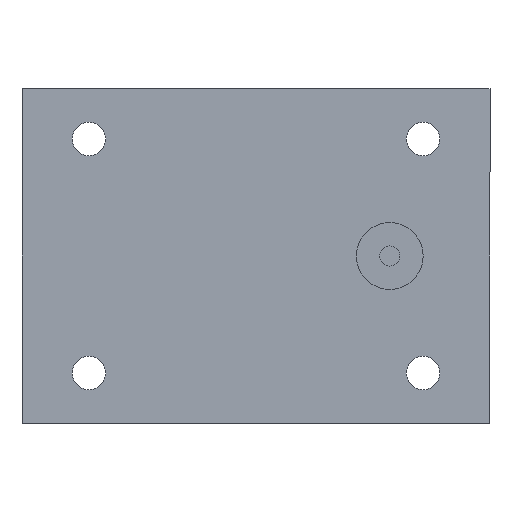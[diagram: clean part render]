
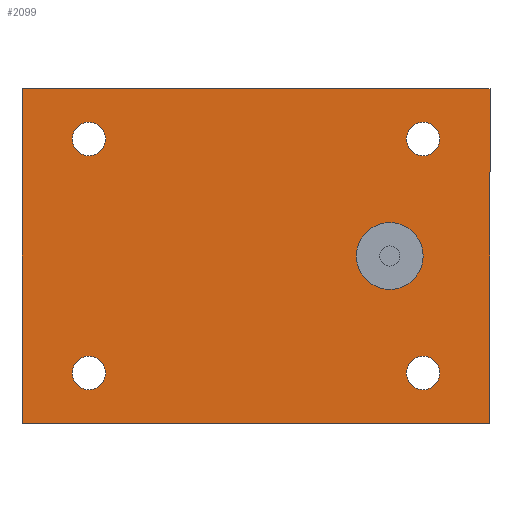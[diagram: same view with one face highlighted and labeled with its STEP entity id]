
A CAD part, front view. The second image highlights one B-rep face of the part: STEP entity #2099.
In plain terms, the highlighted planar face has unit normal (0, -1, 0).
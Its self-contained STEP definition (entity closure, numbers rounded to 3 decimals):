
#5 = LINE ( 'NONE', #1243, #1953 ) ;
#22 = FACE_BOUND ( 'NONE', #175, .T. ) ;
#33 = ORIENTED_EDGE ( 'NONE', *, *, #551, .T. ) ;
#34 = CARTESIAN_POINT ( 'NONE',  ( -25., 0., 20. ) ) ;
#35 = ORIENTED_EDGE ( 'NONE', *, *, #1269, .F. ) ;
#37 = ORIENTED_EDGE ( 'NONE', *, *, #637, .T. ) ;
#43 = CARTESIAN_POINT ( 'NONE',  ( 35., 0., 25. ) ) ;
#65 = CARTESIAN_POINT ( 'NONE',  ( -25., 0., 17.5 ) ) ;
#93 = DIRECTION ( 'NONE',  ( 0., 0., -1. ) ) ;
#114 = DIRECTION ( 'NONE',  ( 0., 1., 0. ) ) ;
#144 = DIRECTION ( 'NONE',  ( 1., 0., 0. ) ) ;
#175 = EDGE_LOOP ( 'NONE', ( #1355, #1098 ) ) ;
#191 = CARTESIAN_POINT ( 'NONE',  ( 20., 0., 0. ) ) ;
#201 = AXIS2_PLACEMENT_3D ( 'NONE', #974, #1367, #1846 ) ;
#202 = DIRECTION ( 'NONE',  ( 0., 0., 1. ) ) ;
#231 = CARTESIAN_POINT ( 'NONE',  ( 20., 0., 0. ) ) ;
#232 = EDGE_LOOP ( 'NONE', ( #1827, #1901 ) ) ;
#243 = CIRCLE ( 'NONE', #201, 2.5 ) ;
#253 = AXIS2_PLACEMENT_3D ( 'NONE', #2047, #680, #339 ) ;
#289 = CARTESIAN_POINT ( 'NONE',  ( -35., 0., 25. ) ) ;
#316 = VERTEX_POINT ( 'NONE', #1195 ) ;
#338 = EDGE_CURVE ( 'NONE', #1907, #2186, #2118, .T. ) ;
#339 = DIRECTION ( 'NONE',  ( 0., 0., 1. ) ) ;
#343 = CARTESIAN_POINT ( 'NONE',  ( -25., 0., 17.5 ) ) ;
#357 = VECTOR ( 'NONE', #393, 1000. ) ;
#361 = VERTEX_POINT ( 'NONE', #1363 ) ;
#364 = DIRECTION ( 'NONE',  ( 0., -1., 0. ) ) ;
#387 = VECTOR ( 'NONE', #144, 1000. ) ;
#393 = DIRECTION ( 'NONE',  ( 0., 0., 1. ) ) ;
#423 = DIRECTION ( 'NONE',  ( 0., 0., -1. ) ) ;
#432 = CARTESIAN_POINT ( 'NONE',  ( 20., 0., 5. ) ) ;
#495 = DIRECTION ( 'NONE',  ( 0., 1., 0. ) ) ;
#503 = FACE_BOUND ( 'NONE', #1214, .T. ) ;
#511 = VECTOR ( 'NONE', #93, 1000. ) ;
#542 = VERTEX_POINT ( 'NONE', #1765 ) ;
#543 = ORIENTED_EDGE ( 'NONE', *, *, #2049, .T. ) ;
#551 = EDGE_CURVE ( 'NONE', #1585, #2185, #1014, .T. ) ;
#567 = AXIS2_PLACEMENT_3D ( 'NONE', #1515, #1361, #1185 ) ;
#576 = CARTESIAN_POINT ( 'NONE',  ( 25., 0., -20. ) ) ;
#583 = ORIENTED_EDGE ( 'NONE', *, *, #1719, .T. ) ;
#622 = CARTESIAN_POINT ( 'NONE',  ( 25., 0., 15. ) ) ;
#637 = EDGE_CURVE ( 'NONE', #728, #1247, #931, .T. ) ;
#648 = ORIENTED_EDGE ( 'NONE', *, *, #913, .T. ) ;
#677 = CIRCLE ( 'NONE', #567, 2.5 ) ;
#680 = DIRECTION ( 'NONE',  ( 0., 1., 0. ) ) ;
#694 = DIRECTION ( 'NONE',  ( 0., 1., 0. ) ) ;
#728 = VERTEX_POINT ( 'NONE', #1805 ) ;
#760 = VERTEX_POINT ( 'NONE', #2172 ) ;
#797 = CARTESIAN_POINT ( 'NONE',  ( -35., 0., -25. ) ) ;
#801 = VERTEX_POINT ( 'NONE', #432 ) ;
#826 = DIRECTION ( 'NONE',  ( 0., 1., 0. ) ) ;
#828 = CARTESIAN_POINT ( 'NONE',  ( -35., 0., 25. ) ) ;
#898 = CARTESIAN_POINT ( 'NONE',  ( -35., 0., -25. ) ) ;
#903 = EDGE_CURVE ( 'NONE', #760, #542, #243, .T. ) ;
#907 = AXIS2_PLACEMENT_3D ( 'NONE', #1590, #1757, #202 ) ;
#913 = EDGE_CURVE ( 'NONE', #361, #1051, #1951, .T. ) ;
#931 = CIRCLE ( 'NONE', #1331, 2.5 ) ;
#939 = FACE_OUTER_BOUND ( 'NONE', #1316, .T. ) ;
#942 = DIRECTION ( 'NONE',  ( 0., 1., 0. ) ) ;
#943 = ORIENTED_EDGE ( 'NONE', *, *, #1099, .F. ) ;
#949 = DIRECTION ( 'NONE',  ( 0., 0., 1. ) ) ;
#960 = ORIENTED_EDGE ( 'NONE', *, *, #1963, .T. ) ;
#970 = LINE ( 'NONE', #1137, #511 ) ;
#974 = CARTESIAN_POINT ( 'NONE',  ( -25., 0., -17.5 ) ) ;
#1014 = CIRCLE ( 'NONE', #1376, 2.5 ) ;
#1033 = CARTESIAN_POINT ( 'NONE',  ( 0., 0., 0. ) ) ;
#1050 = EDGE_CURVE ( 'NONE', #801, #316, #2081, .T. ) ;
#1051 = VERTEX_POINT ( 'NONE', #576 ) ;
#1079 = DIRECTION ( 'NONE',  ( 0., 0., -1. ) ) ;
#1098 = ORIENTED_EDGE ( 'NONE', *, *, #903, .T. ) ;
#1099 = EDGE_CURVE ( 'NONE', #2186, #2096, #970, .T. ) ;
#1137 = CARTESIAN_POINT ( 'NONE',  ( 35., 0., -25. ) ) ;
#1185 = DIRECTION ( 'NONE',  ( 0., 0., 1. ) ) ;
#1195 = CARTESIAN_POINT ( 'NONE',  ( 20., 0., -5. ) ) ;
#1205 = VERTEX_POINT ( 'NONE', #797 ) ;
#1213 = AXIS2_PLACEMENT_3D ( 'NONE', #191, #364, #1079 ) ;
#1214 = EDGE_LOOP ( 'NONE', ( #648, #960 ) ) ;
#1243 = CARTESIAN_POINT ( 'NONE',  ( -35., 0., -25. ) ) ;
#1247 = VERTEX_POINT ( 'NONE', #622 ) ;
#1256 = AXIS2_PLACEMENT_3D ( 'NONE', #1663, #826, #1991 ) ;
#1267 = EDGE_CURVE ( 'NONE', #2096, #1205, #5, .T. ) ;
#1269 = EDGE_CURVE ( 'NONE', #1205, #1907, #1620, .T. ) ;
#1280 = EDGE_LOOP ( 'NONE', ( #37, #583 ) ) ;
#1316 = EDGE_LOOP ( 'NONE', ( #943, #1347, #35, #1877 ) ) ;
#1322 = CARTESIAN_POINT ( 'NONE',  ( 25., 0., 17.5 ) ) ;
#1331 = AXIS2_PLACEMENT_3D ( 'NONE', #1322, #114, #949 ) ;
#1347 = ORIENTED_EDGE ( 'NONE', *, *, #338, .F. ) ;
#1355 = ORIENTED_EDGE ( 'NONE', *, *, #2084, .T. ) ;
#1361 = DIRECTION ( 'NONE',  ( 0., 1., 0. ) ) ;
#1363 = CARTESIAN_POINT ( 'NONE',  ( 25., 0., -15. ) ) ;
#1367 = DIRECTION ( 'NONE',  ( 0., 1., 0. ) ) ;
#1376 = AXIS2_PLACEMENT_3D ( 'NONE', #65, #942, #1436 ) ;
#1428 = FACE_BOUND ( 'NONE', #1280, .T. ) ;
#1432 = CIRCLE ( 'NONE', #907, 2.5 ) ;
#1436 = DIRECTION ( 'NONE',  ( 0., 0., 1. ) ) ;
#1458 = CIRCLE ( 'NONE', #2091, 2.5 ) ;
#1515 = CARTESIAN_POINT ( 'NONE',  ( 25., 0., -17.5 ) ) ;
#1529 = PLANE ( 'NONE',  #2053 ) ;
#1585 = VERTEX_POINT ( 'NONE', #2173 ) ;
#1590 = CARTESIAN_POINT ( 'NONE',  ( 25., 0., 17.5 ) ) ;
#1620 = LINE ( 'NONE', #898, #357 ) ;
#1663 = CARTESIAN_POINT ( 'NONE',  ( 25., 0., -17.5 ) ) ;
#1699 = DIRECTION ( 'NONE',  ( 0., 0., 1. ) ) ;
#1719 = EDGE_CURVE ( 'NONE', #1247, #728, #1432, .T. ) ;
#1743 = DIRECTION ( 'NONE',  ( -1., 0., 0. ) ) ;
#1757 = DIRECTION ( 'NONE',  ( 0., 1., 0. ) ) ;
#1761 = FACE_BOUND ( 'NONE', #232, .T. ) ;
#1765 = CARTESIAN_POINT ( 'NONE',  ( -25., 0., -15. ) ) ;
#1805 = CARTESIAN_POINT ( 'NONE',  ( 25., 0., 20. ) ) ;
#1822 = EDGE_CURVE ( 'NONE', #316, #801, #2105, .T. ) ;
#1827 = ORIENTED_EDGE ( 'NONE', *, *, #1822, .F. ) ;
#1846 = DIRECTION ( 'NONE',  ( 0., 0., 1. ) ) ;
#1862 = DIRECTION ( 'NONE',  ( 0., 0., 1. ) ) ;
#1877 = ORIENTED_EDGE ( 'NONE', *, *, #1267, .F. ) ;
#1901 = ORIENTED_EDGE ( 'NONE', *, *, #1050, .F. ) ;
#1907 = VERTEX_POINT ( 'NONE', #289 ) ;
#1909 = AXIS2_PLACEMENT_3D ( 'NONE', #231, #2109, #423 ) ;
#1951 = CIRCLE ( 'NONE', #1256, 2.5 ) ;
#1953 = VECTOR ( 'NONE', #1743, 1000. ) ;
#1963 = EDGE_CURVE ( 'NONE', #1051, #361, #677, .T. ) ;
#1991 = DIRECTION ( 'NONE',  ( 0., 0., 1. ) ) ;
#2043 = CARTESIAN_POINT ( 'NONE',  ( 35., 0., -25. ) ) ;
#2047 = CARTESIAN_POINT ( 'NONE',  ( -25., 0., -17.5 ) ) ;
#2049 = EDGE_CURVE ( 'NONE', #2185, #1585, #1458, .T. ) ;
#2053 = AXIS2_PLACEMENT_3D ( 'NONE', #1033, #495, #1699 ) ;
#2069 = CIRCLE ( 'NONE', #253, 2.5 ) ;
#2081 = CIRCLE ( 'NONE', #1909, 5. ) ;
#2084 = EDGE_CURVE ( 'NONE', #542, #760, #2069, .T. ) ;
#2091 = AXIS2_PLACEMENT_3D ( 'NONE', #343, #694, #1862 ) ;
#2096 = VERTEX_POINT ( 'NONE', #2043 ) ;
#2099 = ADVANCED_FACE ( 'NONE', ( #1761, #22, #503, #2102, #1428, #939 ), #1529, .F. ) ;
#2102 = FACE_BOUND ( 'NONE', #2174, .T. ) ;
#2105 = CIRCLE ( 'NONE', #1213, 5. ) ;
#2109 = DIRECTION ( 'NONE',  ( 0., -1., 0. ) ) ;
#2118 = LINE ( 'NONE', #828, #387 ) ;
#2172 = CARTESIAN_POINT ( 'NONE',  ( -25., 0., -20. ) ) ;
#2173 = CARTESIAN_POINT ( 'NONE',  ( -25., 0., 15. ) ) ;
#2174 = EDGE_LOOP ( 'NONE', ( #543, #33 ) ) ;
#2185 = VERTEX_POINT ( 'NONE', #34 ) ;
#2186 = VERTEX_POINT ( 'NONE', #43 ) ;
